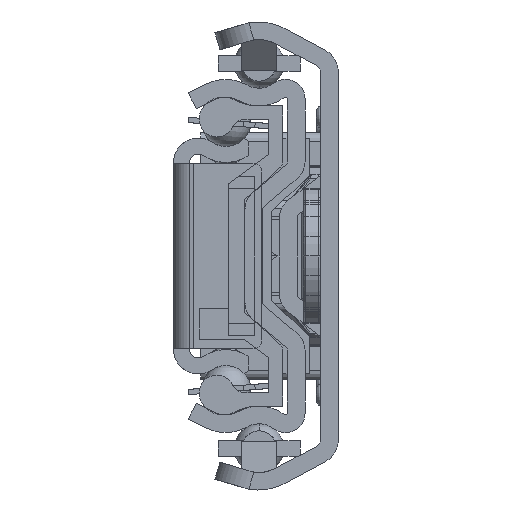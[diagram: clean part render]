
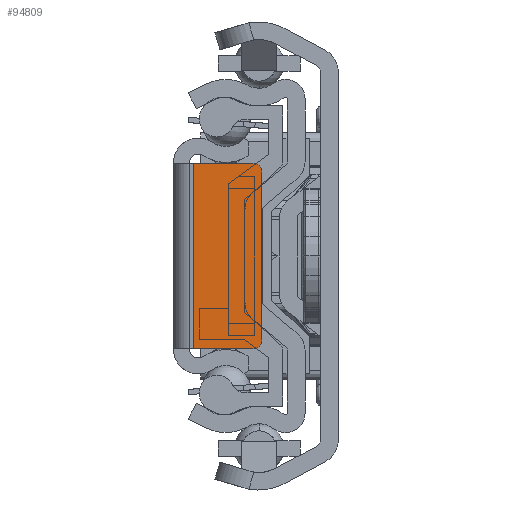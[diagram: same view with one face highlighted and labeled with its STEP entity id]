
A CAD part, left-side view. The second image highlights one B-rep face of the part: STEP entity #94809.
In plain terms, the highlighted planar face has unit normal (-1, 0, 0).
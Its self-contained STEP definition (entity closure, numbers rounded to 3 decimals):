
#88057=DIRECTION('',(0.,-1.,0.));
#88058=VECTOR('',#88057,6.7);
#88059=CARTESIAN_POINT('',(0.,-2.3,10.5));
#88060=LINE('',#88059,#88058);
#89256=DIRECTION('',(0.,-1.,0.));
#89257=VECTOR('',#89256,6.7);
#89258=CARTESIAN_POINT('',(0.,-2.3,-10.5));
#89259=LINE('',#89258,#89257);
#89260=CARTESIAN_POINT('',(0.,-9.,9.5));
#89261=DIRECTION('',(-1.,0.,0.));
#89262=DIRECTION('',(0.,-1.,0.));
#89263=AXIS2_PLACEMENT_3D('',#89260,#89261,#89262);
#89265=CARTESIAN_POINT('',(0.,-9.,-9.5));
#89266=DIRECTION('',(-1.,0.,0.));
#89267=DIRECTION('',(0.,0.,-1.));
#89268=AXIS2_PLACEMENT_3D('',#89265,#89266,#89267);
#89270=DIRECTION('',(0.,0.,1.));
#89271=VECTOR('',#89270,21.);
#89272=CARTESIAN_POINT('',(0.,-2.3,-10.5));
#89273=LINE('',#89272,#89271);
#89282=DIRECTION('',(0.,0.,1.));
#89283=VECTOR('',#89282,19.);
#89284=CARTESIAN_POINT('',(0.,-10.,-9.5));
#89285=LINE('',#89284,#89283);
#92647=CARTESIAN_POINT('',(0.,-2.3,-10.5));
#92648=CARTESIAN_POINT('',(0.,-2.3,10.5));
#92649=VERTEX_POINT('',#92647);
#92650=VERTEX_POINT('',#92648);
#92672=CARTESIAN_POINT('',(0.,-10.,9.5));
#92673=VERTEX_POINT('',#92672);
#92674=CARTESIAN_POINT('',(0.,-9.,10.5));
#92675=VERTEX_POINT('',#92674);
#92676=CARTESIAN_POINT('',(0.,-9.,-10.5));
#92677=CARTESIAN_POINT('',(0.,-10.,-9.5));
#92678=VERTEX_POINT('',#92676);
#92679=VERTEX_POINT('',#92677);
#94794=CARTESIAN_POINT('',(0.,-2.3,-10.5));
#94795=DIRECTION('',(-1.,0.,0.));
#94796=DIRECTION('',(0.,-1.,0.));
#94797=AXIS2_PLACEMENT_3D('',#94794,#94795,#94796);
#94798=PLANE('',#94797);
#94799=ORIENTED_EDGE('',*,*,#93877,.F.);
#94801=ORIENTED_EDGE('',*,*,#94800,.F.);
#94802=ORIENTED_EDGE('',*,*,#94785,.F.);
#94803=ORIENTED_EDGE('',*,*,#94775,.F.);
#94805=ORIENTED_EDGE('',*,*,#94804,.T.);
#94806=ORIENTED_EDGE('',*,*,#93854,.T.);
#94807=EDGE_LOOP('',(#94799,#94801,#94802,#94803,#94805,#94806));
#94808=FACE_OUTER_BOUND('',#94807,.F.);
#89264=CIRCLE('',#89263,1.);
#89269=CIRCLE('',#89268,1.);
#93854=EDGE_CURVE('',#92650,#92675,#88060,.T.);
#93877=EDGE_CURVE('',#92673,#92675,#89264,.T.);
#94775=EDGE_CURVE('',#92649,#92678,#89259,.T.);
#94785=EDGE_CURVE('',#92678,#92679,#89269,.T.);
#94800=EDGE_CURVE('',#92679,#92673,#89285,.T.);
#94804=EDGE_CURVE('',#92649,#92650,#89273,.T.);
#94809=ADVANCED_FACE('',(#94808),#94798,.T.);
